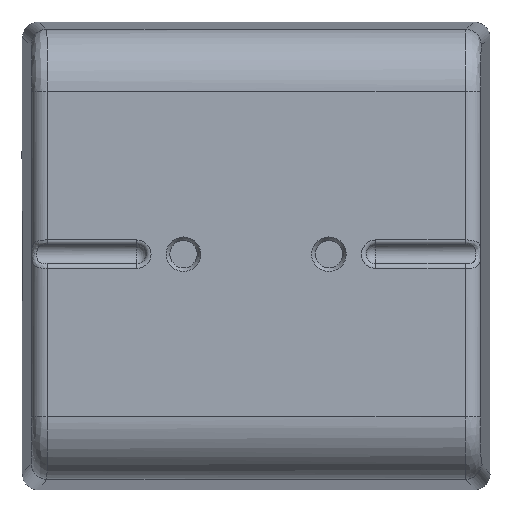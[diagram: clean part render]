
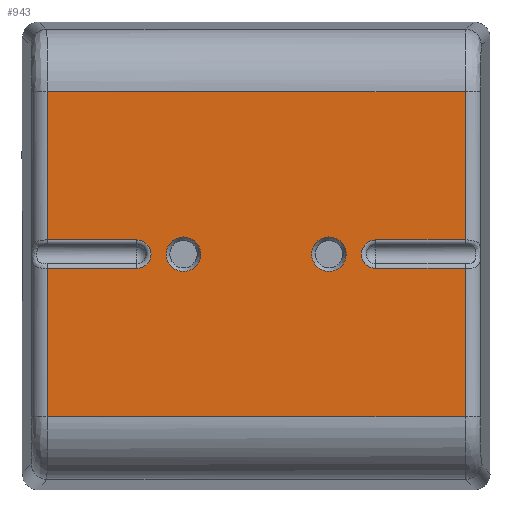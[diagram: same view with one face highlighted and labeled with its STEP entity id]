
A CAD part, top view. The second image highlights one B-rep face of the part: STEP entity #943.
In plain terms, the highlighted planar face has unit normal (0, 0, 1).
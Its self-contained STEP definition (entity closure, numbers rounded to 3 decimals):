
#812=CARTESIAN_POINT('',(-1.75,4.316,93.627));
#813=VERTEX_POINT('',#812);
#814=CARTESIAN_POINT('',(-1.75,5.975,93.627));
#815=DIRECTION('',(0.0,0.0,1.0));
#816=DIRECTION('',(0.0,1.0,0.0));
#817=AXIS2_PLACEMENT_3D('',#814,#815,#816);
#818=CIRCLE('',#817,1.659);
#819=EDGE_CURVE('',#813,#813,#818,.T.);
#824=CARTESIAN_POINT('',(-8.75,5.975,93.627));
#825=DIRECTION('',(0.0,0.0,1.0));
#826=DIRECTION('',(1.0,0.0,0.0));
#827=AXIS2_PLACEMENT_3D('',#824,#825,#826);
#828=PLANE('',#827);
#829=CARTESIAN_POINT('',(11.364,7.35,93.627));
#830=VERTEX_POINT('',#829);
#831=CARTESIAN_POINT('',(2.75,7.35,93.627));
#832=VERTEX_POINT('',#831);
#833=CARTESIAN_POINT('',(11.364,7.35,93.627));
#834=DIRECTION('',(-1.0,0.0,0.0));
#835=VECTOR('',#834,8.614);
#836=LINE('',#833,#835);
#837=EDGE_CURVE('',#830,#832,#836,.T.);
#838=ORIENTED_EDGE('',*,*,#837,.F.);
#839=CARTESIAN_POINT('',(11.364,21.63,93.627));
#840=VERTEX_POINT('',#839);
#841=CARTESIAN_POINT('',(11.364,21.63,93.627));
#842=DIRECTION('',(0.0,-1.0,0.0));
#843=VECTOR('',#842,14.281);
#844=LINE('',#841,#843);
#845=EDGE_CURVE('',#840,#830,#844,.T.);
#846=ORIENTED_EDGE('',*,*,#845,.F.);
#847=CARTESIAN_POINT('',(-28.864,21.63,93.627));
#848=VERTEX_POINT('',#847);
#849=CARTESIAN_POINT('',(-28.864,21.63,93.627));
#850=DIRECTION('',(1.0,0.0,0.0));
#851=VECTOR('',#850,40.228);
#852=LINE('',#849,#851);
#853=EDGE_CURVE('',#848,#840,#852,.T.);
#854=ORIENTED_EDGE('',*,*,#853,.F.);
#855=CARTESIAN_POINT('',(-28.864,7.35,93.627));
#856=VERTEX_POINT('',#855);
#857=CARTESIAN_POINT('',(-28.864,7.35,93.627));
#858=DIRECTION('',(0.0,1.0,0.0));
#859=VECTOR('',#858,14.281);
#860=LINE('',#857,#859);
#861=EDGE_CURVE('',#856,#848,#860,.T.);
#862=ORIENTED_EDGE('',*,*,#861,.F.);
#863=CARTESIAN_POINT('',(-20.25,7.35,93.627));
#864=VERTEX_POINT('',#863);
#865=CARTESIAN_POINT('',(-20.25,7.35,93.627));
#866=DIRECTION('',(-1.0,0.0,0.0));
#867=VECTOR('',#866,8.614);
#868=LINE('',#865,#867);
#869=EDGE_CURVE('',#864,#856,#868,.T.);
#870=ORIENTED_EDGE('',*,*,#869,.F.);
#871=CARTESIAN_POINT('',(-20.25,4.6,93.627));
#872=VERTEX_POINT('',#871);
#873=CARTESIAN_POINT('',(-20.25,5.975,93.627));
#874=DIRECTION('',(0.0,0.0,1.0));
#875=DIRECTION('',(1.0,0.0,0.0));
#876=AXIS2_PLACEMENT_3D('',#873,#874,#875);
#877=CIRCLE('',#876,1.375);
#878=EDGE_CURVE('',#872,#864,#877,.T.);
#879=ORIENTED_EDGE('',*,*,#878,.F.);
#880=CARTESIAN_POINT('',(-28.864,4.6,93.627));
#881=VERTEX_POINT('',#880);
#882=CARTESIAN_POINT('',(-28.864,4.6,93.627));
#883=DIRECTION('',(1.0,0.0,0.0));
#884=VECTOR('',#883,8.614);
#885=LINE('',#882,#884);
#886=EDGE_CURVE('',#881,#872,#885,.T.);
#887=ORIENTED_EDGE('',*,*,#886,.F.);
#888=CARTESIAN_POINT('',(-28.864,-9.681,93.627));
#889=VERTEX_POINT('',#888);
#890=CARTESIAN_POINT('',(-28.864,-9.681,93.627));
#891=DIRECTION('',(0.0,1.0,0.0));
#892=VECTOR('',#891,14.281);
#893=LINE('',#890,#892);
#894=EDGE_CURVE('',#889,#881,#893,.T.);
#895=ORIENTED_EDGE('',*,*,#894,.F.);
#896=CARTESIAN_POINT('',(11.364,-9.681,93.627));
#897=VERTEX_POINT('',#896);
#898=CARTESIAN_POINT('',(11.364,-9.681,93.627));
#899=DIRECTION('',(-1.0,0.0,0.0));
#900=VECTOR('',#899,40.228);
#901=LINE('',#898,#900);
#902=EDGE_CURVE('',#897,#889,#901,.T.);
#903=ORIENTED_EDGE('',*,*,#902,.F.);
#904=CARTESIAN_POINT('',(11.364,4.6,93.627));
#905=VERTEX_POINT('',#904);
#906=CARTESIAN_POINT('',(11.364,4.6,93.627));
#907=DIRECTION('',(0.0,-1.0,0.0));
#908=VECTOR('',#907,14.281);
#909=LINE('',#906,#908);
#910=EDGE_CURVE('',#905,#897,#909,.T.);
#911=ORIENTED_EDGE('',*,*,#910,.F.);
#912=CARTESIAN_POINT('',(2.75,4.6,93.627));
#913=VERTEX_POINT('',#912);
#914=CARTESIAN_POINT('',(2.75,4.6,93.627));
#915=DIRECTION('',(1.0,0.0,0.0));
#916=VECTOR('',#915,8.614);
#917=LINE('',#914,#916);
#918=EDGE_CURVE('',#913,#905,#917,.T.);
#919=ORIENTED_EDGE('',*,*,#918,.F.);
#920=CARTESIAN_POINT('',(2.75,5.975,93.627));
#921=DIRECTION('',(0.0,0.0,1.0));
#922=DIRECTION('',(-1.0,0.0,0.0));
#923=AXIS2_PLACEMENT_3D('',#920,#921,#922);
#924=CIRCLE('',#923,1.375);
#925=EDGE_CURVE('',#832,#913,#924,.T.);
#926=ORIENTED_EDGE('',*,*,#925,.F.);
#927=EDGE_LOOP('',(#838,#846,#854,#862,#870,#879,#887,#895,#903,#911,#919,#926));
#928=FACE_OUTER_BOUND('',#927,.T.);
#929=CARTESIAN_POINT('',(-15.75,4.316,93.627));
#930=VERTEX_POINT('',#929);
#931=CARTESIAN_POINT('',(-15.75,5.975,93.627));
#932=DIRECTION('',(0.0,0.0,1.0));
#933=DIRECTION('',(0.0,1.0,0.0));
#934=AXIS2_PLACEMENT_3D('',#931,#932,#933);
#935=CIRCLE('',#934,1.659);
#936=EDGE_CURVE('',#930,#930,#935,.T.);
#937=ORIENTED_EDGE('',*,*,#936,.F.);
#938=EDGE_LOOP('',(#937));
#939=FACE_BOUND('',#938,.T.);
#940=ORIENTED_EDGE('',*,*,#819,.F.);
#941=EDGE_LOOP('',(#940));
#942=FACE_BOUND('',#941,.T.);
#943=ADVANCED_FACE('',(#928,#939,#942),#828,.T.);
